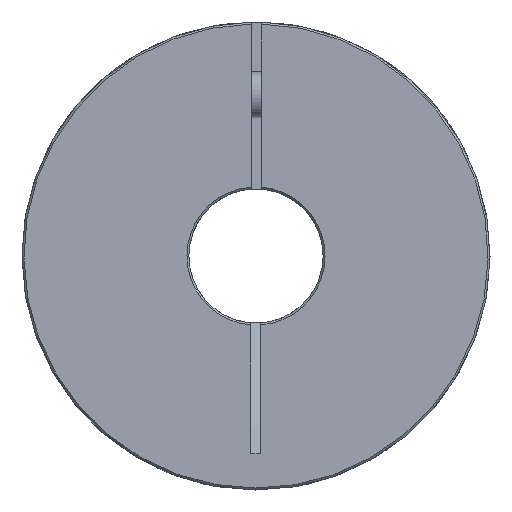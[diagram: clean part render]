
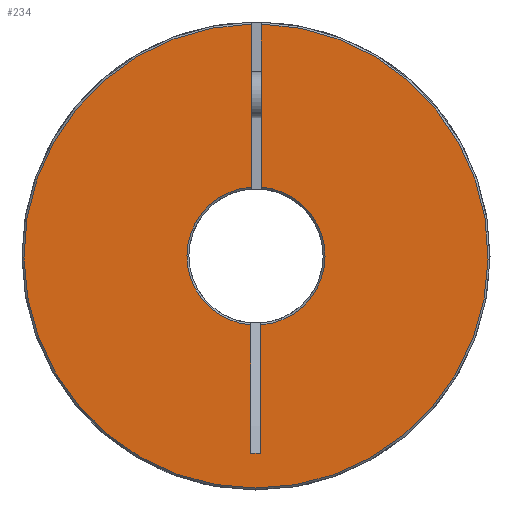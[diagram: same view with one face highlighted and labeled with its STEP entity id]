
A CAD part, left-side view. The second image highlights one B-rep face of the part: STEP entity #234.
In plain terms, the highlighted planar face has unit normal (-1, 0, 0).
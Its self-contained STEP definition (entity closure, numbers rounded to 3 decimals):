
#234 = ADVANCED_FACE( 'NONE', ( #481 ), #482, .F. );
#481 = FACE_OUTER_BOUND( '', #790, .T. );
#482 = PLANE( '', #791 );
#790 = EDGE_LOOP( '', ( #1177, #1178, #1179, #1180, #1181, #1182, #1183, #1184 ) );
#791 = AXIS2_PLACEMENT_3D( '', #1185, #1186, #1187 );
#1177 = ORIENTED_EDGE( '', *, *, #1636, .T. );
#1178 = ORIENTED_EDGE( '', *, *, #1567, .T. );
#1179 = ORIENTED_EDGE( '', *, *, #1637, .T. );
#1180 = ORIENTED_EDGE( '', *, *, #1638, .T. );
#1181 = ORIENTED_EDGE( '', *, *, #1622, .F. );
#1182 = ORIENTED_EDGE( '', *, *, #1639, .T. );
#1183 = ORIENTED_EDGE( '', *, *, #1578, .F. );
#1184 = ORIENTED_EDGE( '', *, *, #1616, .T. );
#1185 = CARTESIAN_POINT( '', ( 0., 17.5, 0. ) );
#1186 = DIRECTION( '', ( 1., 0., 0. ) );
#1187 = DIRECTION( '', ( 0., 1., 0. ) );
#1567 = EDGE_CURVE( 'NONE', #1787, #1788, #1789, .T. );
#1578 = EDGE_CURVE( 'NONE', #1806, #1807, #1808, .F. );
#1616 = EDGE_CURVE( 'NONE', #1806, #1865, #1867, .T. );
#1622 = EDGE_CURVE( 'NONE', #1875, #1877, #1878, .F. );
#1636 = EDGE_CURVE( 'NONE', #1865, #1787, #1898, .T. );
#1637 = EDGE_CURVE( 'NONE', #1788, #1899, #1900, .T. );
#1638 = EDGE_CURVE( 'NONE', #1899, #1877, #1901, .F. );
#1639 = EDGE_CURVE( 'NONE', #1875, #1807, #1902, .T. );
#1787 = VERTEX_POINT( 'NONE', #2087 );
#1788 = VERTEX_POINT( 'NONE', #2088 );
#1789 = CIRCLE( '', #2089, 18. );
#1806 = VERTEX_POINT( 'NONE', #2112 );
#1807 = VERTEX_POINT( 'NONE', #2113 );
#1808 = LINE( '', #2114, #2115 );
#1865 = VERTEX_POINT( 'NONE', #2184 );
#1867 = LINE( '', #2186, #2187 );
#1875 = VERTEX_POINT( 'NONE', #2295 );
#1877 = VERTEX_POINT( 'NONE', #2300 );
#1878 = LINE( '', #2301, #2302 );
#1898 = LINE( '', #2330, #2331 );
#1899 = VERTEX_POINT( 'NONE', #2332 );
#1900 = LINE( '', #2333, #2334 );
#1901 = CIRCLE( '', #2335, 60.5 );
#1902 = CIRCLE( '', #2336, 18. );
#2087 = CARTESIAN_POINT( '', ( 0., 17.953, 1.3 ) );
#2088 = CARTESIAN_POINT( '', ( 0., -17.953, 1.3 ) );
#2089 = AXIS2_PLACEMENT_3D( '', #2590, #2591, #2592 );
#2112 = CARTESIAN_POINT( '', ( 0., 51.446, -1.3 ) );
#2113 = CARTESIAN_POINT( '', ( 0., 17.953, -1.3 ) );
#2114 = CARTESIAN_POINT( '', ( 0., -13., -1.3 ) );
#2115 = VECTOR( '', #2608, 1000. );
#2184 = CARTESIAN_POINT( '', ( 0., 51.446, 1.3 ) );
#2186 = CARTESIAN_POINT( '', ( 0., 51.446, -1.3 ) );
#2187 = VECTOR( '', #2666, 1000. );
#2295 = CARTESIAN_POINT( '', ( 0., -17.953, -1.3 ) );
#2300 = CARTESIAN_POINT( '', ( 0., -60.486, -1.3 ) );
#2301 = CARTESIAN_POINT( '', ( 0., -13., -1.3 ) );
#2302 = VECTOR( '', #2668, 1000. );
#2330 = CARTESIAN_POINT( '', ( 0., 17.5, 1.3 ) );
#2331 = VECTOR( '', #2683, 1000. );
#2332 = CARTESIAN_POINT( '', ( 0., -60.486, 1.3 ) );
#2333 = CARTESIAN_POINT( '', ( 0., 17.5, 1.3 ) );
#2334 = VECTOR( '', #2684, 1000. );
#2335 = AXIS2_PLACEMENT_3D( '', #2685, #2686, #2687 );
#2336 = AXIS2_PLACEMENT_3D( '', #2688, #2689, #2690 );
#2590 = CARTESIAN_POINT( '', ( 0., 0., 0. ) );
#2591 = DIRECTION( '', ( 1., 0., 0. ) );
#2592 = DIRECTION( '', ( 0., 0., -1. ) );
#2608 = DIRECTION( '', ( 0., 1., 0. ) );
#2666 = DIRECTION( '', ( 0., 0., 1. ) );
#2668 = DIRECTION( '', ( 0., 1., 0. ) );
#2683 = DIRECTION( '', ( 0., -1., 0. ) );
#2684 = DIRECTION( '', ( 0., -1., 0. ) );
#2685 = CARTESIAN_POINT( '', ( 0., 0., 0. ) );
#2686 = DIRECTION( '', ( 1., 0., 0. ) );
#2687 = DIRECTION( '', ( 0., 0., -1. ) );
#2688 = CARTESIAN_POINT( '', ( 0., 0., 0. ) );
#2689 = DIRECTION( '', ( 1., 0., 0. ) );
#2690 = DIRECTION( '', ( 0., 0., -1. ) );
